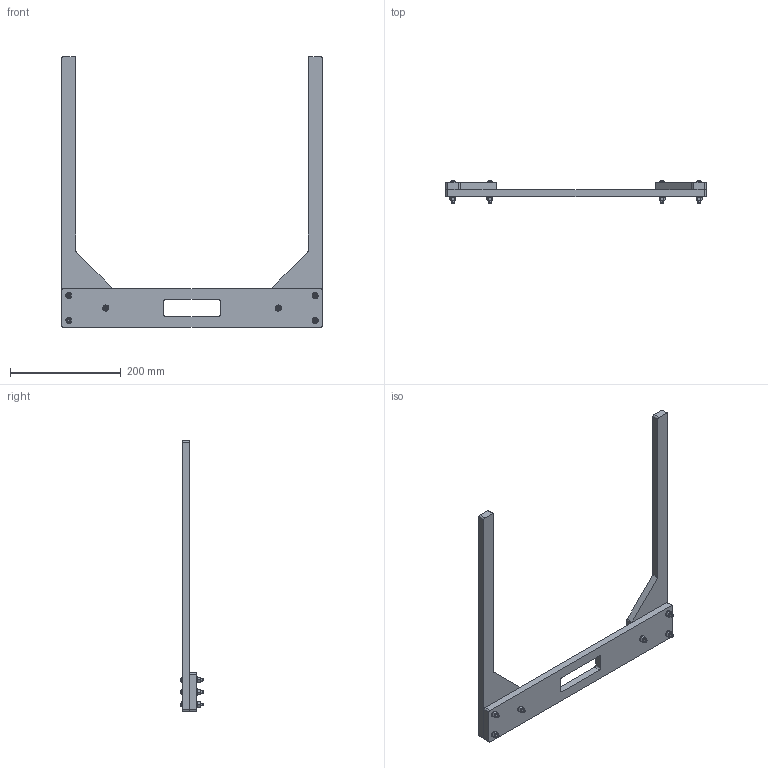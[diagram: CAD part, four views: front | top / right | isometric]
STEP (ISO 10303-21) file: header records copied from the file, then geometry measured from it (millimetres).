
FILE_DESCRIPTION (( 'STEP AP214' ), '1' );
FILE_NAME ('GE-25401.STEP', '2025-01-03T21:52:51', ( '' ), ( '' ), 'SwSTEP 2.0', 'SolidWorks 2022', '' );
FILE_SCHEMA (( 'AUTOMOTIVE_DESIGN' ));
Length unit declared in the file: inch
Products named in the file (6): GE-25402; nylock_10_32_90631A411; washer_flat_10_washer_flat_10; Button_hex_10_32_1.5; GE-25404; GE-25401
Assembly tree (27 placements, depth 2):
  GE-25401
    GE-25404
    GE-25402  x2
    Button_hex_10_32_1.5  x6
    washer_flat_10_washer_flat_10  x12
    nylock_10_32_90631A411  x6
Bounding box: 469.9 x 40.67 x 488.95 mm (x, y, z)
Volume: 867766.6 mm3; surface area: 195180.1 mm2
Topology: 33 solids, 33 shells, 544 faces, 1245 edges, 796 vertices
Faces by surface type: plane 199, cylinder 175, cone 96, torus 36, bspline 26, sphere 12
Entity records: 7096 total; most frequent: CARTESIAN_POINT 2353, DIRECTION 919, ORIENTED_EDGE 908, EDGE_CURVE 454, AXIS2_PLACEMENT_3D 359, VERTEX_POINT 297, EDGE_LOOP 213, VECTOR 201
